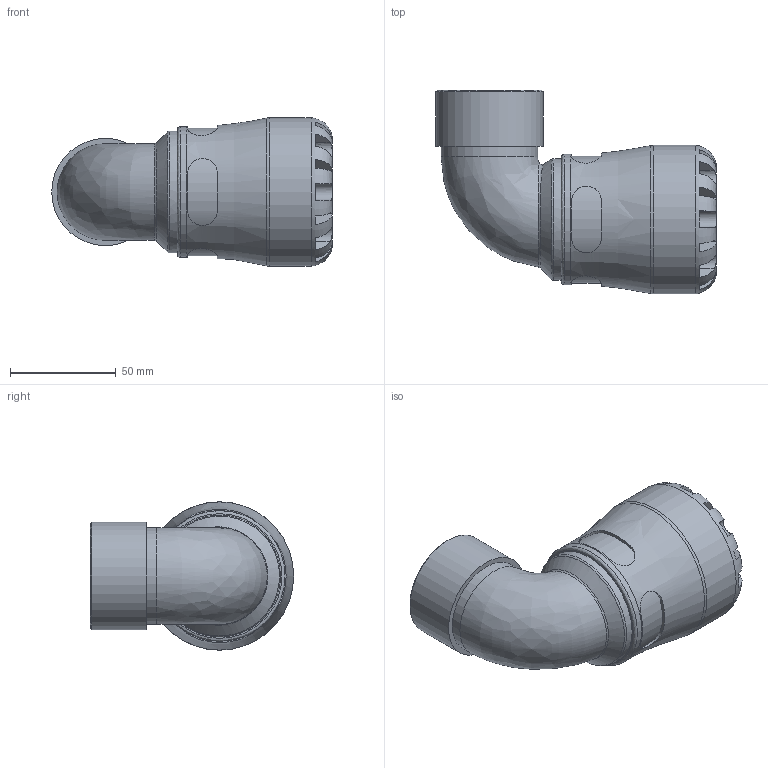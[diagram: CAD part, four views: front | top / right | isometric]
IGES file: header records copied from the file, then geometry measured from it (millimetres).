
Global section: file name: 101500040013_191500040013.ipt; native system: Autodesk Inventor 2015; preprocessor: unknown; author: KIM; date: 20170730.115222; units: millimetre
Bounding box: 132.32 x 96 x 70 mm (x, y, z)
Volume: 218914.5 mm3; surface area: 52357.9 mm2
Topology: 1 solids, 1 shells, 110 faces, 280 edges, 177 vertices
Faces by surface type: plane 62, revolution 26, cylinder 17, bspline 4, cone 1
Full cylindrical faces by diameter (mm): 45.574 x1, 50.638 x1, 57.4 x1, 61.6 x1, 70 x1
